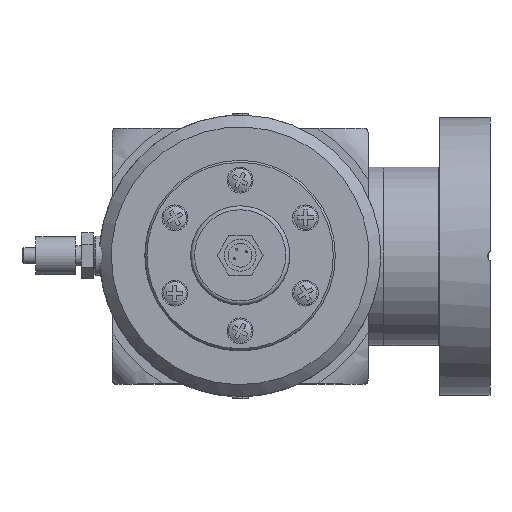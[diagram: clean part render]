
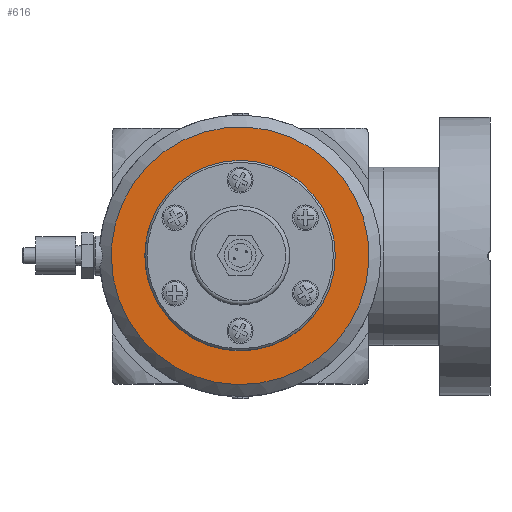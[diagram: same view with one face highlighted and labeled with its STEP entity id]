
A CAD part, top view. The second image highlights one B-rep face of the part: STEP entity #616.
In plain terms, the highlighted planar face has unit normal (0, 0, 1).
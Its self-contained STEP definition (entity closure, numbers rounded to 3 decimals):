
#616 = ADVANCED_FACE( '', ( #1231, #1232 ), #1233, .T. );
#1231 = FACE_OUTER_BOUND( '', #2073, .T. );
#1232 = FACE_BOUND( '', #2074, .T. );
#1233 = PLANE( '', #2075 );
#2073 = EDGE_LOOP( '', ( #3032 ) );
#2074 = EDGE_LOOP( '', ( #3033 ) );
#2075 = AXIS2_PLACEMENT_3D( '', #3034, #3035, #3036 );
#3032 = ORIENTED_EDGE( '', *, *, #4362, .T. );
#3033 = ORIENTED_EDGE( '', *, *, #4363, .T. );
#3034 = CARTESIAN_POINT( '', ( -35.5, 0., 41.5 ) );
#3035 = DIRECTION( '', ( 0., 0., 1. ) );
#3036 = DIRECTION( '', ( 1., 0., 0. ) );
#4362 = EDGE_CURVE( '', #4996, #4996, #4997, .T. );
#4363 = EDGE_CURVE( '', #4998, #4998, #4999, .T. );
#4996 = VERTEX_POINT( '', #6180 );
#4997 = CIRCLE( '', #6181, 32.5 );
#4998 = VERTEX_POINT( '', #6182 );
#4999 = CIRCLE( '', #6183, 8.456 );
#6180 = CARTESIAN_POINT( '', ( 32.5, 0., 41.5 ) );
#6181 = AXIS2_PLACEMENT_3D( '', #7528, #7529, #7530 );
#6182 = CARTESIAN_POINT( '', ( -8.456, 0., 41.5 ) );
#6183 = AXIS2_PLACEMENT_3D( '', #7531, #7532, #7533 );
#7528 = CARTESIAN_POINT( '', ( 0., 0., 41.5 ) );
#7529 = DIRECTION( '', ( 0., 0., 1. ) );
#7530 = DIRECTION( '', ( 1., 0., 0. ) );
#7531 = CARTESIAN_POINT( '', ( 0., 0., 41.5 ) );
#7532 = DIRECTION( '', ( 0., 0., -1. ) );
#7533 = DIRECTION( '', ( -1., 0., 0. ) );
